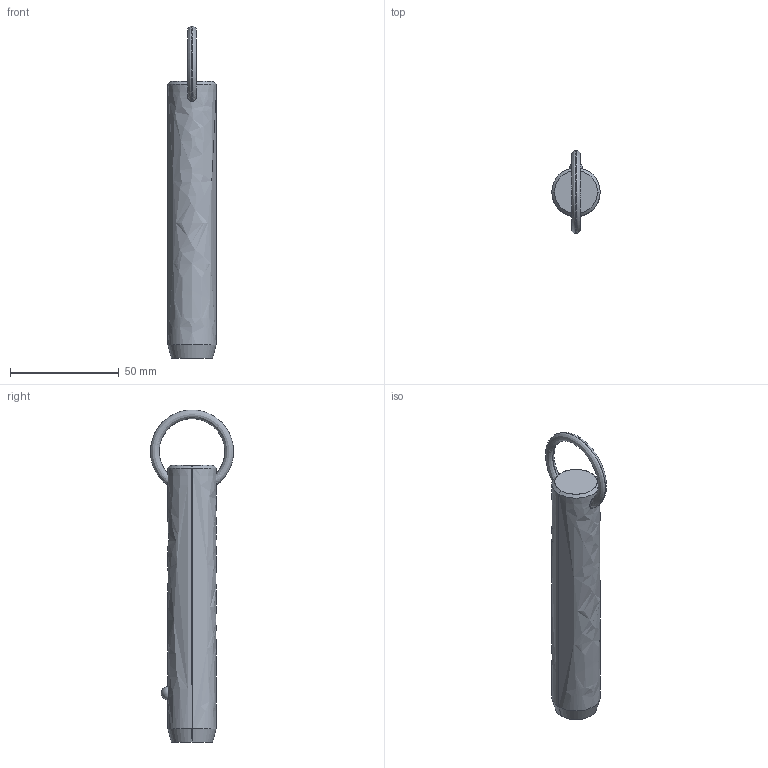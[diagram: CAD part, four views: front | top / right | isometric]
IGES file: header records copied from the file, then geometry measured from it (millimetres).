
Start section: SolidWorks IGES file using analytic representation for surfaces
Global section: file name: C:\Users\liam_\OneDrive\Documents\WORK\Work for WixRoyd\Job Files\J-00019 - Matt Davis CAD Checking\04. CAD Drawings\automotion20190605\P1250.2_v2\P1250.2_v2_20190729_IGES\P1250.087-350.igs; native system: SolidWorks 2017; preprocessor: SolidWorks 2017; author: liam_; date: 190730.001000; units: millimetre
Bounding box: 22.2 x 38.09 x 152.39 mm (x, y, z)
Surface area: 10501.2 mm2 (no closed solid volume)
Topology: 0 solids, 0 shells, 12 faces, 302 edges, 300 vertices
Faces by surface type: revolution 8, bspline 4
